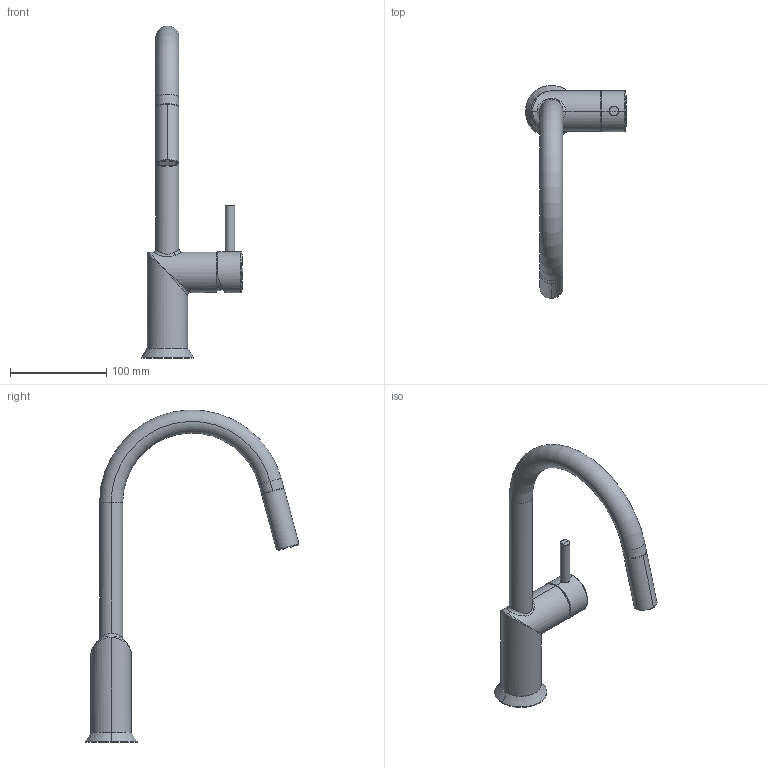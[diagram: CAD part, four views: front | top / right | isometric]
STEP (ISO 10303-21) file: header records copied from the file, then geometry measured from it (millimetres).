
FILE_DESCRIPTION((''),'2;1');
FILE_NAME('DIS_3D_1852F_SW0001','2022-08-04T17:13:26',('Elia'),(''),'CREO PARAMETRIC BY PTC INC, 2021424','CREO PARAMETRIC BY PTC INC, 2021424','');
FILE_SCHEMA(('AUTOMOTIVE_DESIGN { 1 0 10303 214 1 1 1 1 }'));
Length unit declared in the file: millimetre
Products named in the file (1): DIS_3D_1852F_SW0001
Bounding box: 105.03 x 221.92 x 344.9 mm (x, y, z)
Volume: 443751.9 mm3; surface area: 63864 mm2
Topology: 1 solids, 2 shells, 120 faces, 302 edges, 186 vertices
Faces by surface type: cylinder 46, plane 36, torus 18, sphere 8, bspline 6, cone 6
Entity records: 6061 total; most frequent: CARTESIAN_POINT 2898, DIRECTION 651, ORIENTED_EDGE 588, EDGE_CURVE 294, AXIS2_PLACEMENT_3D 270, VERTEX_POINT 186, CIRCLE 146, EDGE_LOOP 134
